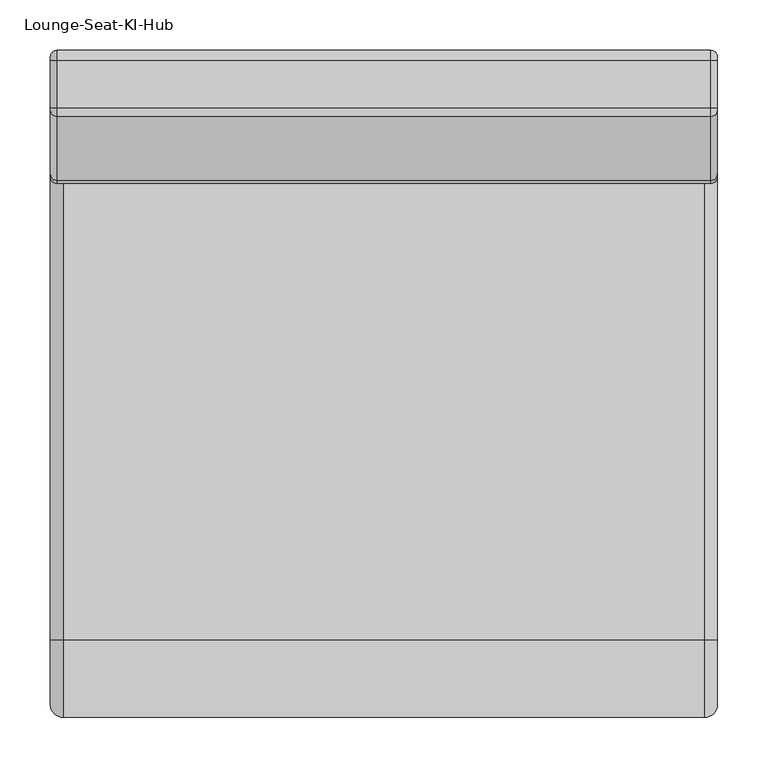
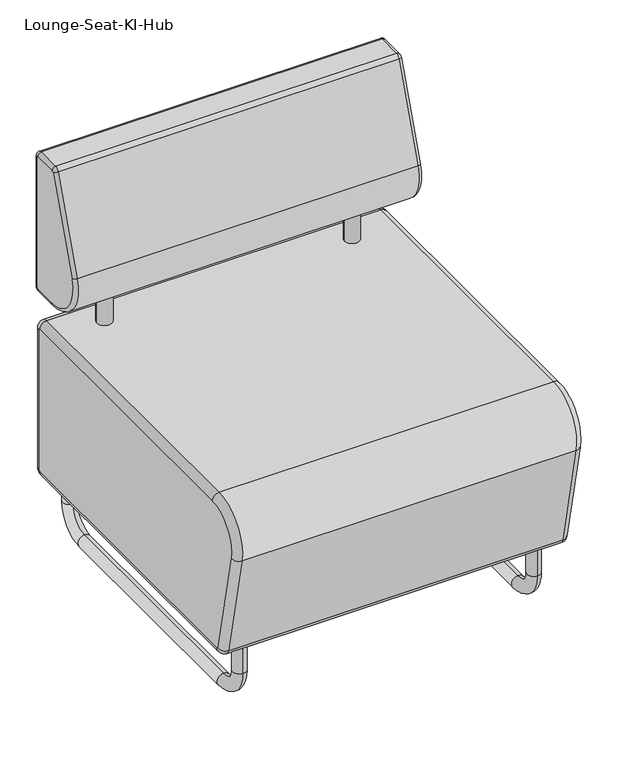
"""IFC4 building model written with IfcOpenShell, lengths in millimetres: furniture geometry."""

from ifc_helpers import new_model, si_unit, point, frame, frame_2d, origin, place, context, project, spatial, circle_curve, ellipse_curve, trimmed, segment, composite_curve, outline, extrude, source, transform, mapped, element, save
from ifc_brep_helpers import plane_surface, cylinder_surface, revolved_surface, advanced_brep


def lounge_seat_ki_hub_ab34b198(model_context):
    return source(origin(), model_context, "Body", "SolidModel", [
        extrude(outline(composite_curve([segment(trimmed(circle_curve(frame_2d((234.95, 266.7)), 14.2875), [point((220.6625, 266.7))], [point((249.2375, 266.7))], False, "CARTESIAN"), True, "CONTINUOUS"), segment(trimmed(circle_curve(frame_2d((234.95, 266.7)), 14.2875), [point((249.2375, 266.7))], [point((220.6625, 266.7))], False, "CARTESIAN"), True, "CONTINUOUS")], self_intersect=False)), frame((0.0, 0.0, 431.8), z_axis=(0.0, 0.0, 1.0), x_axis=(1.0, 0.0, 0.0)), (0.0, 0.0, 1.0), 63.5),
        extrude(outline(composite_curve([segment(trimmed(circle_curve(frame_2d((-234.95, 266.7)), 14.2875), [point((-249.2375, 266.7))], [point((-220.6625, 266.7))], False, "CARTESIAN"), True, "CONTINUOUS"), segment(trimmed(circle_curve(frame_2d((-234.95, 266.7)), 14.2875), [point((-220.6625, 266.7))], [point((-249.2375, 266.7))], False, "CARTESIAN"), True, "CONTINUOUS")], self_intersect=False)), frame((0.0, 0.0, 431.8), z_axis=(0.0, 0.0, 1.0), x_axis=(1.0, 0.0, 0.0)), (0.0, 0.0, 1.0), 63.5),
        advanced_brep(
        [(330.2, 274.6375, 495.3), (330.2, 207.4933705, 584.4032693), (323.85, 201.3893588, 586.1535665), (323.85, 274.6375, 488.95), (-323.85, 274.6375, 488.95), (-323.85, 201.3893588, 586.1535665), (-330.2, 207.4933705, 584.4032693), (-330.2, 274.6375, 495.3), (323.85, 320.675, 488.95), (330.2, 320.675, 495.3), (-330.2, 320.675, 495.3), (-323.85, 320.675, 488.95), (323.85, 330.2, 498.475), (330.2, 323.85, 498.475), (-330.2, 323.85, 498.475), (-323.85, 330.2, 498.475), (323.85, 330.2, 758.825), (330.2, 323.85, 758.825), (-330.2, 323.85, 758.825), (-323.85, 330.2, 758.825), (323.85, 320.675, 768.35), (330.2, 320.675, 762.0), (-330.2, 320.675, 762.0), (-323.85, 320.675, 768.35), (323.85, 273.6171173, 768.35), (330.2, 273.6171173, 762.0), (-330.2, 273.6171173, 762.0), (-323.85, 273.6171173, 768.35), (323.85, 264.88726, 762.6348842), (330.2, 270.7071649, 760.0949614), (-330.2, 270.7071649, 760.0949614), (-323.85, 264.88726, 762.6348842)],
        [
            (0, 1, circle_curve(frame((330.2, 274.6375, 565.15), z_axis=(-1.0, 0.0, 0.0), x_axis=(0.0, -0.9612616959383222, 0.2756373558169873)), 69.85)),
            (1, 2, circle_curve(frame((323.85, 207.4933705, 584.4032693), z_axis=(0.0, -0.2756373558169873, -0.9612616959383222), x_axis=(0.0, 0.9612616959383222, -0.2756373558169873)), 6.35)),
            (2, 3, circle_curve(frame((323.85, 274.6375, 565.15), z_axis=(1.0, 0.0, 0.0), x_axis=(0.0, -0.9612616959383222, 0.2756373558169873)), 76.2)),
            (3, 0, circle_curve(frame((323.85, 274.6375, 495.3), z_axis=(0.0, -0.9999999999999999, 0.0), x_axis=(0.0, 0.0, 0.9999999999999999)), 6.35)),
            (4, 5, circle_curve(frame((-323.85, 274.6375, 565.15), z_axis=(-1.0, 0.0, 0.0), x_axis=(0.0, -0.9612616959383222, 0.2756373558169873)), 76.2)),
            (5, 6, circle_curve(frame((-323.85, 207.4933705, 584.4032693), z_axis=(0.0, -0.2756373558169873, -0.9612616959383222), x_axis=(0.0, 0.9612616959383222, -0.2756373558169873)), 6.35)),
            (6, 7, circle_curve(frame((-330.2, 274.6375, 565.15), z_axis=(1.0, 0.0, 0.0), x_axis=(0.0, -0.9612616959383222, 0.2756373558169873)), 69.85)),
            (7, 4, circle_curve(frame((-323.85, 274.6375, 495.3), z_axis=(0.0, -1.0, 0.0), x_axis=(0.0, 0.0, 1.0)), 6.35)),
            (2, 5),
            (4, 3),
            (3, 8),
            (8, 9, circle_curve(frame((323.85, 320.675, 495.3), z_axis=(0.0, -1.0, 0.0), x_axis=(0.0, 0.0, 1.0)), 6.35)),
            (9, 0),
            (7, 10),
            (10, 11, circle_curve(frame((-323.85, 320.675, 495.3), z_axis=(0.0, -1.0, 0.0), x_axis=(0.0, 0.0, 1.0)), 6.35)),
            (11, 4),
            (11, 8),
            (8, 12, circle_curve(frame((323.85, 320.675, 498.475), z_axis=(1.0, 0.0, 0.0), x_axis=(0.0, 0.0, -1.0)), 9.525)),
            (12, 13, circle_curve(frame((323.85, 323.85, 498.475), z_axis=(0.0, -1.3642707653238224e-12, -1.0), x_axis=(0.0, -1.0, 1.3642707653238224e-12)), 6.35)),
            (13, 9, circle_curve(frame((330.2, 320.675, 498.475), z_axis=(-1.0, 0.0, 0.0), x_axis=(0.0, 0.0, -1.0)), 3.175)),
            (10, 14, circle_curve(frame((-330.2, 320.675, 498.475), z_axis=(1.0, 0.0, 0.0), x_axis=(0.0, 0.0, -1.0)), 3.175)),
            (14, 15, circle_curve(frame((-323.85, 323.85, 498.475), z_axis=(0.0, 0.0, -1.0), x_axis=(0.0, -1.0, 0.0)), 6.35)),
            (15, 11, circle_curve(frame((-323.85, 320.675, 498.475), z_axis=(-1.0, 0.0, 0.0), x_axis=(0.0, 0.0, -1.0)), 9.525)),
            (15, 12),
            (12, 16),
            (16, 17, circle_curve(frame((323.85, 323.85, 758.825), z_axis=(0.0, 0.0, -1.0), x_axis=(0.0, -1.0, 0.0)), 6.35)),
            (17, 13),
            (14, 18),
            (18, 19, circle_curve(frame((-323.85, 323.85, 758.825), z_axis=(0.0, 0.0, -1.0), x_axis=(0.0, -1.0, 0.0)), 6.35)),
            (19, 15),
            (19, 16),
            (16, 20, circle_curve(frame((323.85, 320.675, 758.825), z_axis=(1.0, 0.0, 0.0), x_axis=(0.0, 1.0, 0.0)), 9.525)),
            (20, 21, circle_curve(frame((323.85, 320.675, 762.0), z_axis=(0.0, 1.0, 0.0), x_axis=(0.0, 0.0, -1.0)), 6.35)),
            (21, 17, circle_curve(frame((330.2, 320.675, 758.825), z_axis=(-1.0, 0.0, 0.0), x_axis=(0.0, 1.0, 0.0)), 3.175)),
            (18, 22, circle_curve(frame((-330.2, 320.675, 758.825), z_axis=(1.0, 0.0, 0.0), x_axis=(0.0, 1.0, 0.0)), 3.175)),
            (22, 23, circle_curve(frame((-323.85, 320.675, 762.0), z_axis=(0.0, 1.0, 0.0), x_axis=(0.0, 0.0, -1.0)), 6.35)),
            (23, 19, circle_curve(frame((-323.85, 320.675, 758.825), z_axis=(-1.0, 0.0, 0.0), x_axis=(0.0, 1.0, 0.0)), 9.525)),
            (23, 20),
            (20, 24),
            (24, 25, circle_curve(frame((323.85, 273.6171173, 762.0), z_axis=(0.0, 1.0, 0.0), x_axis=(0.0, 0.0, -1.0)), 6.35)),
            (25, 21),
            (22, 26),
            (26, 27, circle_curve(frame((-323.85, 273.6171173, 762.0), z_axis=(0.0, 1.0, 0.0), x_axis=(0.0, 0.0, -1.0)), 6.35)),
            (27, 23),
            (27, 24),
            (24, 28, circle_curve(frame((323.85, 273.6171173, 758.825), z_axis=(1.0, 0.0, 0.0), x_axis=(0.0, 0.0, 1.0)), 9.525)),
            (28, 29, circle_curve(frame((323.85, 270.7071649, 760.0949614), z_axis=(0.0, 0.39998784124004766, 0.916520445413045), x_axis=(0.0, 0.916520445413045, -0.39998784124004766)), 6.35)),
            (29, 25, circle_curve(frame((330.2, 273.6171173, 758.825), z_axis=(-1.0, 0.0, 0.0), x_axis=(0.0, 0.0, 1.0)), 3.175)),
            (26, 30, circle_curve(frame((-330.2, 273.6171173, 758.825), z_axis=(1.0, 0.0, 0.0), x_axis=(0.0, 0.0, 1.0)), 3.175)),
            (30, 31, circle_curve(frame((-323.85, 270.7071649, 760.0949614), z_axis=(0.0, 0.3999878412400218, 0.9165204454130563), x_axis=(0.0, 0.9165204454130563, -0.3999878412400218)), 6.35)),
            (31, 27, circle_curve(frame((-323.85, 273.6171173, 758.825), z_axis=(-1.0, 0.0, 0.0), x_axis=(0.0, 0.0, 1.0)), 9.525)),
            (31, 28),
            (1, 29, circle_curve(frame((330.2, 1565.6359892, 194.9621402), z_axis=(-1.0, 0.0, 0.0), x_axis=(0.0, -0.9165204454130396, 0.39998784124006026)), 1412.875)),
            (28, 2, circle_curve(frame((323.85, 1565.6359892, 194.9621402), z_axis=(1.0, 0.0, 0.0), x_axis=(0.0, -0.9165204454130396, 0.39998784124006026)), 1419.225)),
            (6, 30, circle_curve(frame((-330.2, 1565.6359892, 194.9621402), z_axis=(-1.0, 0.0, 0.0), x_axis=(0.0, -0.9165204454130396, 0.39998784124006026)), 1412.875)),
            (5, 31, circle_curve(frame((-323.85, 1565.6359892, 194.9621402), z_axis=(-1.0, 0.0, 0.0), x_axis=(0.0, -0.9165204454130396, 0.39998784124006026)), 1419.225)),
        ],
        [
            revolved_surface(trimmed(ellipse_curve(frame((323.85, 207.4933705, 584.4032693), z_axis=(0.0, 0.2756373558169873, 0.9612616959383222), x_axis=(0.0, 0.9612616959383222, -0.2756373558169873)), 6.35, 6.35), [point((323.85, 201.3893588, 586.1535665))], [point((330.2, 207.4933705, 584.4032693))], True, "CARTESIAN"), (0.0, 274.6375, 565.15), (1.0, 0.0, 0.0)),
            revolved_surface(trimmed(ellipse_curve(frame((-323.85, 207.4933705, 584.4032693), z_axis=(0.0, 0.2756373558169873, 0.9612616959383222), x_axis=(0.0, 0.9612616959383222, -0.2756373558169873)), 6.35, 6.35), [point((-330.2, 207.4933705, 584.4032693))], [point((-323.85, 201.3893588, 586.1535665))], True, "CARTESIAN"), (0.0, 274.6375, 565.15), (1.0, 0.0, 0.0)),
            cylinder_surface(frame((0.0, 274.6375, 565.15), z_axis=(1.0, 0.0, 0.0), x_axis=(0.0, -0.9612616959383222, 0.2756373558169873)), 76.2),
            cylinder_surface(frame((323.85, 274.6375, 495.3), z_axis=(0.0, -1.0, 0.0), x_axis=(0.0, 0.0, 1.0)), 6.35),
            cylinder_surface(frame((-323.85, 274.6375, 495.3), z_axis=(0.0, -1.0, 0.0), x_axis=(0.0, 0.0, 1.0)), 6.35),
            plane_surface(frame((-323.85, 274.6375, 488.95), z_axis=(0.0, 0.0, -1.0), x_axis=(0.0, 1.0, 0.0))),
            revolved_surface(trimmed(ellipse_curve(frame((323.85, 320.675, 495.3), z_axis=(0.0, -1.0, 0.0), x_axis=(0.0, 0.0, 1.0)), 6.35, 6.35), [point((323.85, 320.675, 488.95))], [point((330.2, 320.675, 495.3))], True, "CARTESIAN"), (0.0, 320.675, 498.475), (1.0, 0.0, 0.0)),
            revolved_surface(trimmed(ellipse_curve(frame((-323.85, 320.675, 495.3), z_axis=(0.0, -1.0, 0.0), x_axis=(0.0, 0.0, 1.0)), 6.35, 6.35), [point((-330.2, 320.675, 495.3))], [point((-323.85, 320.675, 488.95))], True, "CARTESIAN"), (0.0, 320.675, 498.475), (1.0, 0.0, 0.0)),
            cylinder_surface(frame((0.0, 320.675, 498.475), z_axis=(1.0, 0.0, 0.0), x_axis=(0.0, 0.0, -1.0)), 9.525),
            cylinder_surface(frame((323.85, 323.85, 498.475), z_axis=(0.0, 0.0, -1.0), x_axis=(0.0, -1.0, 0.0)), 6.35),
            cylinder_surface(frame((-323.85, 323.85, 498.475), z_axis=(0.0, 0.0, -1.0), x_axis=(0.0, -1.0, 0.0)), 6.35),
            plane_surface(frame((-323.85, 330.2, 498.475), z_axis=(0.0, 1.0, 0.0), x_axis=(0.0, 0.0, 1.0))),
            revolved_surface(trimmed(ellipse_curve(frame((323.85, 323.85, 758.825), z_axis=(0.0, 0.0, -1.0), x_axis=(0.0, -1.0, 0.0)), 6.35, 6.35), [point((323.85, 330.2, 758.825))], [point((330.2, 323.85, 758.825))], True, "CARTESIAN"), (0.0, 320.675, 758.825), (1.0, 0.0, 0.0)),
            revolved_surface(trimmed(ellipse_curve(frame((-323.85, 323.85, 758.825), z_axis=(0.0, 0.0, -1.0), x_axis=(0.0, -1.0, 0.0)), 6.35, 6.35), [point((-330.2, 323.85, 758.825))], [point((-323.85, 330.2, 758.825))], True, "CARTESIAN"), (0.0, 320.675, 758.825), (1.0, 0.0, 0.0)),
            cylinder_surface(frame((0.0, 320.675, 758.825), z_axis=(1.0, 0.0, 0.0), x_axis=(0.0, 1.0, 0.0)), 9.525),
            cylinder_surface(frame((323.85, 320.675, 762.0), z_axis=(0.0, 1.0, 0.0), x_axis=(0.0, 0.0, -1.0)), 6.35),
            cylinder_surface(frame((-323.85, 320.675, 762.0), z_axis=(0.0, 1.0, 0.0), x_axis=(0.0, 0.0, -1.0)), 6.35),
            plane_surface(frame((-323.85, 320.675, 768.35), z_axis=(0.0, 0.0, 1.0), x_axis=(0.0, -1.0, 0.0))),
            revolved_surface(trimmed(ellipse_curve(frame((323.85, 273.6171173, 762.0), z_axis=(0.0, 1.0, 0.0), x_axis=(0.0, 0.0, -1.0)), 6.35, 6.35), [point((323.85, 273.6171173, 768.35))], [point((330.2, 273.6171173, 762.0))], True, "CARTESIAN"), (0.0, 273.6171173, 758.825), (1.0, 0.0, 0.0)),
            revolved_surface(trimmed(ellipse_curve(frame((-323.85, 273.6171173, 762.0), z_axis=(0.0, 1.0, 0.0), x_axis=(0.0, 0.0, -1.0)), 6.35, 6.35), [point((-330.2, 273.6171173, 762.0))], [point((-323.85, 273.6171173, 768.35))], True, "CARTESIAN"), (0.0, 273.6171173, 758.825), (1.0, 0.0, 0.0)),
            cylinder_surface(frame((0.0, 273.6171173, 758.825), z_axis=(1.0, 0.0, 0.0), x_axis=(0.0, 0.0, 1.0)), 9.525),
            revolved_surface(trimmed(ellipse_curve(frame((323.85, 270.7071649, 760.0949614), z_axis=(0.0, 0.39998784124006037, 0.9165204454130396), x_axis=(0.0, 0.9165204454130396, -0.39998784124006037)), 6.35, 6.35), [point((323.85, 264.88726, 762.6348842))], [point((330.2, 270.7071649, 760.0949614))], True, "CARTESIAN"), (0.0, 1565.6359892, 194.9621402), (1.0, 0.0, 0.0)),
            plane_surface(frame((330.2, 1565.6359892, 194.9621402), z_axis=(1.0, 0.0, 0.0), x_axis=(0.0, -0.9165204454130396, 0.39998784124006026))),
            plane_surface(frame((-330.2, 1565.6359892, 194.9621402), z_axis=(-1.0, 0.0, 0.0), x_axis=(0.0, -0.9165204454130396, 0.39998784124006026))),
            revolved_surface(trimmed(ellipse_curve(frame((-323.85, 270.7071649, 760.0949614), z_axis=(0.0, 0.39998784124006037, 0.9165204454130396), x_axis=(0.0, 0.9165204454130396, -0.39998784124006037)), 6.35, 6.35), [point((-330.2, 270.7071649, 760.0949614))], [point((-323.85, 264.88726, 762.6348842))], True, "CARTESIAN"), (0.0, 1565.6359892, 194.9621402), (1.0, 0.0, 0.0)),
            cylinder_surface(frame((0.0, 1565.6359892, 194.9621402), z_axis=(1.0, 0.0, 0.0), x_axis=(0.0, -0.9165204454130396, 0.39998784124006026)), 1419.225),
        ],
        [
            (0, [[1, 2, 3, 4]]),
            (1, [[5, 6, 7, 8]]),
            (2, [[-3, 9, -5, 10]]),
            (3, [[-4, 11, 12, 13]]),
            (4, [[-8, 14, 15, 16]]),
            (5, [[-10, -16, 17, -11]]),
            (6, [[-12, 18, 19, 20]]),
            (7, [[-15, 21, 22, 23]]),
            (8, [[-17, -23, 24, -18]]),
            (9, [[-19, 25, 26, 27]]),
            (10, [[-22, 28, 29, 30]]),
            (11, [[-24, -30, 31, -25]]),
            (12, [[-26, 32, 33, 34]]),
            (13, [[-29, 35, 36, 37]]),
            (14, [[-31, -37, 38, -32]]),
            (15, [[-33, 39, 40, 41]]),
            (16, [[-36, 42, 43, 44]]),
            (17, [[-38, -44, 45, -39]]),
            (18, [[-40, 46, 47, 48]]),
            (19, [[-43, 49, 50, 51]]),
            (20, [[-45, -51, 52, -46]]),
            (21, [[-2, 53, -47, 54]]),
            (22, [[-1, -13, -20, -27, -34, -41, -48, -53]]),
            (23, [[-7, 55, -49, -42, -35, -28, -21, -14]]),
            (24, [[-6, 56, -50, -55]]),
            (25, [[-9, -54, -52, -56]]),
        ],
    ),
        advanced_brep(
        [(279.4, -266.7, 120.65), (279.4, -241.3, 120.65), (279.4, -266.7, 63.5), (279.4, -241.3, 63.5), (279.4, -203.2, 25.4), (279.4, -203.2, 0.0), (279.4, 254.0, 0.0), (279.4, 254.0, 25.4), (279.4, 292.1, 63.5), (279.4, 317.5, 63.5), (279.4, 317.5, 120.65), (279.4, 292.1, 120.65)],
        [
            (0, 1, circle_curve(frame((279.4, -254.0, 120.65), z_axis=(0.0, 0.0, 1.0), x_axis=(0.0, 1.0, 0.0)), 12.7)),
            (1, 0, circle_curve(frame((279.4, -254.0, 120.65), z_axis=(0.0, 0.0, 1.0), x_axis=(0.0, 1.0, 0.0)), 12.7)),
            (0, 2),
            (2, 3, circle_curve(frame((279.4, -254.0, 63.5), z_axis=(0.0, 0.0, 1.0), x_axis=(0.0, 1.0, 0.0)), 12.7)),
            (3, 1),
            (3, 2, circle_curve(frame((279.4, -254.0, 63.5), z_axis=(0.0, 0.0, 1.0), x_axis=(0.0, 1.0, 0.0)), 12.7)),
            (4, 3, circle_curve(frame((279.4, -203.2, 63.5), z_axis=(-1.0, 0.0, 0.0), x_axis=(0.0, -1.0, 0.0)), 38.1)),
            (2, 5, circle_curve(frame((279.4, -203.2, 63.5), z_axis=(1.0, 0.0, 0.0), x_axis=(0.0, -1.0, 0.0)), 63.5)),
            (5, 4, circle_curve(frame((279.4, -203.2, 12.7), z_axis=(0.0, -1.0, 0.0), x_axis=(0.0, 0.0, 1.0)), 12.7)),
            (4, 5, circle_curve(frame((279.4, -203.2, 12.7), z_axis=(0.0, -1.0, 0.0), x_axis=(0.0, 0.0, 1.0)), 12.7)),
            (5, 6),
            (6, 7, circle_curve(frame((279.4, 254.0, 12.7), z_axis=(0.0, -1.0, 0.0), x_axis=(0.0, 0.0, 1.0)), 12.7)),
            (7, 4),
            (7, 6, circle_curve(frame((279.4, 254.0, 12.7), z_axis=(0.0, -1.0, 0.0), x_axis=(0.0, 0.0, 1.0)), 12.7)),
            (8, 7, circle_curve(frame((279.4, 254.0, 63.5), z_axis=(-1.0, 0.0, 0.0), x_axis=(0.0, 0.0, -1.0)), 38.1)),
            (6, 9, circle_curve(frame((279.4, 254.0, 63.5), z_axis=(1.0, 0.0, 0.0), x_axis=(0.0, 0.0, -1.0)), 63.5)),
            (9, 8, circle_curve(frame((279.4, 304.8, 63.5), z_axis=(0.0, 0.0, -1.0), x_axis=(0.0, -1.0, 0.0)), 12.7)),
            (8, 9, circle_curve(frame((279.4, 304.8, 63.5), z_axis=(0.0, 0.0, -1.0), x_axis=(0.0, -1.0, 0.0)), 12.7)),
            (10, 11, circle_curve(frame((279.4, 304.8, 120.65), z_axis=(0.0, 0.0, 1.0), x_axis=(0.0, -1.0, 0.0)), 12.7)),
            (11, 10, circle_curve(frame((279.4, 304.8, 120.65), z_axis=(0.0, 0.0, 1.0), x_axis=(0.0, -1.0, 0.0)), 12.7)),
            (9, 10),
            (11, 8),
        ],
        [
            plane_surface(frame((279.4, -254.0, 120.65), z_axis=(0.0, 0.0, 1.0), x_axis=(1.0, 0.0, 0.0))),
            cylinder_surface(frame((279.4, -254.0, 120.65), z_axis=(0.0, 0.0, 1.0), x_axis=(0.0, 1.0, 0.0)), 12.7),
            revolved_surface(trimmed(ellipse_curve(frame((279.4, -254.0, 63.5), z_axis=(0.0, 0.0, 1.0), x_axis=(0.0, 1.0, 0.0)), 12.7, 12.7), [point((279.4, -266.7, 63.5))], [point((279.4, -241.3, 63.5))], True, "CARTESIAN"), (279.4, -203.2, 63.5), (1.0, 0.0, 0.0)),
            revolved_surface(trimmed(ellipse_curve(frame((279.4, -254.0, 63.5), z_axis=(0.0, 0.0, 1.0), x_axis=(0.0, 1.0, 0.0)), 12.7, 12.7), [point((279.4, -241.3, 63.5))], [point((279.4, -266.7, 63.5))], True, "CARTESIAN"), (279.4, -203.2, 63.5), (1.0, 0.0, 0.0)),
            cylinder_surface(frame((279.4, -203.2, 12.7), z_axis=(0.0, -1.0, 0.0), x_axis=(0.0, 0.0, 1.0)), 12.7),
            revolved_surface(trimmed(ellipse_curve(frame((279.4, 254.0, 12.7), z_axis=(0.0, -1.0, 0.0), x_axis=(0.0, 0.0, 1.0)), 12.7, 12.7), [point((279.4, 254.0, 0.0))], [point((279.4, 254.0, 25.4))], True, "CARTESIAN"), (279.4, 254.0, 63.5), (1.0, 0.0, 0.0)),
            revolved_surface(trimmed(ellipse_curve(frame((279.4, 254.0, 12.7), z_axis=(0.0, -1.0, 0.0), x_axis=(0.0, 0.0, 1.0)), 12.7, 12.7), [point((279.4, 254.0, 25.4))], [point((279.4, 254.0, 0.0))], True, "CARTESIAN"), (279.4, 254.0, 63.5), (1.0, 0.0, 0.0)),
            plane_surface(frame((279.4, 304.8, 120.65), z_axis=(0.0, 0.0, 1.0), x_axis=(1.0, 0.0, 0.0))),
            cylinder_surface(frame((279.4, 304.8, 63.5), z_axis=(0.0, 0.0, -1.0), x_axis=(0.0, -1.0, 0.0)), 12.7),
        ],
        [
            (0, [[1, 2]]),
            (1, [[-1, 3, 4, 5]]),
            (1, [[-2, -5, 6, -3]]),
            (2, [[7, -4, 8, 9]]),
            (3, [[-8, -6, -7, 10]]),
            (4, [[-9, 11, 12, 13]]),
            (4, [[-10, -13, 14, -11]]),
            (5, [[15, -12, 16, 17]]),
            (6, [[-16, -14, -15, 18]]),
            (7, [[19, 20]]),
            (8, [[-17, 21, -20, 22]]),
            (8, [[-18, -22, -19, -21]]),
        ],
    ),
        advanced_brep(
        [(-279.4, -266.7, 120.65), (-279.4, -241.3, 120.65), (-279.4, -266.7, 63.5), (-279.4, -241.3, 63.5), (-279.4, -203.2, 25.4), (-279.4, -203.2, 0.0), (-279.4, 254.0, 0.0), (-279.4, 254.0, 25.4), (-279.4, 292.1, 63.5), (-279.4, 317.5, 63.5), (-279.4, 317.5, 120.65), (-279.4, 292.1, 120.65)],
        [
            (0, 1, circle_curve(frame((-279.4, -254.0, 120.65), z_axis=(0.0, 0.0, 1.0), x_axis=(0.0, 1.0, 0.0)), 12.7)),
            (1, 0, circle_curve(frame((-279.4, -254.0, 120.65), z_axis=(0.0, 0.0, 1.0), x_axis=(0.0, 1.0, 0.0)), 12.7)),
            (0, 2),
            (2, 3, circle_curve(frame((-279.4, -254.0, 63.5), z_axis=(0.0, 0.0, 1.0), x_axis=(0.0, 1.0, 0.0)), 12.7)),
            (3, 1),
            (3, 2, circle_curve(frame((-279.4, -254.0, 63.5), z_axis=(0.0, 0.0, 1.0), x_axis=(0.0, 1.0, 0.0)), 12.7)),
            (4, 3, circle_curve(frame((-279.4, -203.2, 63.5), z_axis=(-1.0, 0.0, 0.0), x_axis=(0.0, -1.0, 0.0)), 38.1)),
            (2, 5, circle_curve(frame((-279.4, -203.2, 63.5), z_axis=(1.0, 0.0, 0.0), x_axis=(0.0, -1.0, 0.0)), 63.5)),
            (5, 4, circle_curve(frame((-279.4, -203.2, 12.7), z_axis=(0.0, -1.0, 0.0), x_axis=(0.0, 0.0, 1.0)), 12.7)),
            (4, 5, circle_curve(frame((-279.4, -203.2, 12.7), z_axis=(0.0, -1.0, 0.0), x_axis=(0.0, 0.0, 1.0)), 12.7)),
            (5, 6),
            (6, 7, circle_curve(frame((-279.4, 254.0, 12.7), z_axis=(0.0, -1.0, 0.0), x_axis=(0.0, 0.0, 1.0)), 12.7)),
            (7, 4),
            (7, 6, circle_curve(frame((-279.4, 254.0, 12.7), z_axis=(0.0, -1.0, 0.0), x_axis=(0.0, 0.0, 1.0)), 12.7)),
            (8, 7, circle_curve(frame((-279.4, 254.0, 63.5), z_axis=(-1.0, 0.0, 0.0), x_axis=(0.0, 0.0, -1.0)), 38.1)),
            (6, 9, circle_curve(frame((-279.4, 254.0, 63.5), z_axis=(1.0, 0.0, 0.0), x_axis=(0.0, 0.0, -1.0)), 63.5)),
            (9, 8, circle_curve(frame((-279.4, 304.8, 63.5), z_axis=(0.0, 0.0, -1.0), x_axis=(0.0, -1.0, 0.0)), 12.7)),
            (8, 9, circle_curve(frame((-279.4, 304.8, 63.5), z_axis=(0.0, 0.0, -1.0), x_axis=(0.0, -1.0, 0.0)), 12.7)),
            (10, 11, circle_curve(frame((-279.4, 304.8, 120.65), z_axis=(0.0, 0.0, 1.0), x_axis=(0.0, -1.0, 0.0)), 12.7)),
            (11, 10, circle_curve(frame((-279.4, 304.8, 120.65), z_axis=(0.0, 0.0, 1.0), x_axis=(0.0, -1.0, 0.0)), 12.7)),
            (9, 10),
            (11, 8),
        ],
        [
            plane_surface(frame((-279.4, -254.0, 120.65), z_axis=(0.0, 0.0, 1.0), x_axis=(1.0, 0.0, 0.0))),
            cylinder_surface(frame((-279.4, -254.0, 120.65), z_axis=(0.0, 0.0, 1.0), x_axis=(0.0, 1.0, 0.0)), 12.7),
            revolved_surface(trimmed(ellipse_curve(frame((-279.4, -254.0, 63.5), z_axis=(0.0, 0.0, 1.0), x_axis=(0.0, 1.0, 0.0)), 12.7, 12.7), [point((-279.4, -266.7, 63.5))], [point((-279.4, -241.3, 63.5))], True, "CARTESIAN"), (-279.4, -203.2, 63.5), (1.0, 0.0, 0.0)),
            revolved_surface(trimmed(ellipse_curve(frame((-279.4, -254.0, 63.5), z_axis=(0.0, 0.0, 1.0), x_axis=(0.0, 1.0, 0.0)), 12.7, 12.7), [point((-279.4, -241.3, 63.5))], [point((-279.4, -266.7, 63.5))], True, "CARTESIAN"), (-279.4, -203.2, 63.5), (1.0, 0.0, 0.0)),
            cylinder_surface(frame((-279.4, -203.2, 12.7), z_axis=(0.0, -1.0, 0.0), x_axis=(0.0, 0.0, 1.0)), 12.7),
            revolved_surface(trimmed(ellipse_curve(frame((-279.4, 254.0, 12.7), z_axis=(0.0, -1.0, 0.0), x_axis=(0.0, 0.0, 1.0)), 12.7, 12.7), [point((-279.4, 254.0, 0.0))], [point((-279.4, 254.0, 25.4))], True, "CARTESIAN"), (-279.4, 254.0, 63.5), (1.0, 0.0, 0.0)),
            revolved_surface(trimmed(ellipse_curve(frame((-279.4, 254.0, 12.7), z_axis=(0.0, -1.0, 0.0), x_axis=(0.0, 0.0, 1.0)), 12.7, 12.7), [point((-279.4, 254.0, 25.4))], [point((-279.4, 254.0, 0.0))], True, "CARTESIAN"), (-279.4, 254.0, 63.5), (1.0, 0.0, 0.0)),
            plane_surface(frame((-279.4, 304.8, 120.65), z_axis=(0.0, 0.0, 1.0), x_axis=(1.0, 0.0, 0.0))),
            cylinder_surface(frame((-279.4, 304.8, 63.5), z_axis=(0.0, 0.0, -1.0), x_axis=(0.0, -1.0, 0.0)), 12.7),
        ],
        [
            (0, [[1, 2]]),
            (1, [[-1, 3, 4, 5]]),
            (1, [[-2, -5, 6, -3]]),
            (2, [[7, -4, 8, 9]]),
            (3, [[-8, -6, -7, 10]]),
            (4, [[-9, 11, 12, 13]]),
            (4, [[-10, -13, 14, -11]]),
            (5, [[15, -12, 16, 17]]),
            (6, [[-16, -14, -15, 18]]),
            (7, [[19, 20]]),
            (8, [[-17, 21, -20, 22]]),
            (8, [[-18, -22, -19, -21]]),
        ],
    ),
        advanced_brep(
        [(330.2, -316.1123726, 342.3976076), (330.2, -254.0, 419.1), (317.5, -254.0, 431.8), (317.5, -328.5348472, 339.7571292), (-317.5, -328.5348472, 339.7571292), (-317.5, -254.0, 431.8), (-330.2, -254.0, 419.1), (-330.2, -316.1123726, 342.3976076), (317.5, -284.6349608, 133.2244019), (330.2, -272.2124863, 135.8648804), (-330.2, -272.2124863, 135.8648804), (-317.5, -284.6349608, 133.2244019), (317.5, -269.1068676, 120.65), (330.2, -269.1068676, 133.35), (-330.2, -269.1068676, 133.35), (-317.5, -269.1068676, 120.65), (317.5, 314.325, 120.65), (330.2, 314.325, 133.35), (-330.2, 314.325, 133.35), (-317.5, 314.325, 120.65), (317.5, 330.2, 136.525), (330.2, 317.5, 136.525), (-330.2, 317.5, 136.525), (-317.5, 330.2, 136.525), (317.5, 330.2, 415.925), (330.2, 317.5, 415.925), (-330.2, 317.5, 415.925), (-317.5, 330.2, 415.925), (317.5, 314.325, 431.8), (330.2, 314.325, 419.1), (-330.2, 314.325, 419.1), (-317.5, 314.325, 431.8)],
        [
            (0, 1, circle_curve(frame((330.2, -254.0, 355.6), z_axis=(-1.0, 0.0, 0.0), x_axis=(0.0, 0.0, 1.0)), 63.5)),
            (1, 2, circle_curve(frame((317.5, -254.0, 419.1), z_axis=(0.0, -1.0, 0.0), x_axis=(0.0, 0.0, -1.0)), 12.7)),
            (2, 3, circle_curve(frame((317.5, -254.0, 355.6), z_axis=(1.0, 0.0, 0.0), x_axis=(0.0, 0.0, 1.0)), 76.2)),
            (3, 0, circle_curve(frame((317.5, -316.1123726, 342.3976076), z_axis=(0.0, -0.20791169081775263, 0.978147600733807), x_axis=(0.0, 0.978147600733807, 0.20791169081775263)), 12.7)),
            (4, 5, circle_curve(frame((-317.5, -254.0, 355.6), z_axis=(-1.0, 0.0, 0.0), x_axis=(0.0, 0.0, 1.0)), 76.2)),
            (5, 6, circle_curve(frame((-317.5, -254.0, 419.1), z_axis=(0.0, -1.0, 0.0), x_axis=(0.0, 0.0, -1.0)), 12.7)),
            (6, 7, circle_curve(frame((-330.2, -254.0, 355.6), z_axis=(1.0, 0.0, 0.0), x_axis=(0.0, 0.0, 1.0)), 63.5)),
            (7, 4, circle_curve(frame((-317.5, -316.1123726, 342.3976076), z_axis=(0.0, -0.20791169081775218, 0.9781476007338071), x_axis=(0.0, 0.9781476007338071, 0.20791169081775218)), 12.7)),
            (2, 5),
            (4, 3),
            (3, 8),
            (8, 9, circle_curve(frame((317.5, -272.2124863, 135.8648804), z_axis=(0.0, -0.2079116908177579, 0.978147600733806), x_axis=(0.0, 0.978147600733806, 0.2079116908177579)), 12.7)),
            (9, 0),
            (7, 10),
            (10, 11, circle_curve(frame((-317.5, -272.2124863, 135.8648804), z_axis=(0.0, -0.2079116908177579, 0.978147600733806), x_axis=(0.0, 0.978147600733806, 0.2079116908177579)), 12.7)),
            (11, 4),
            (11, 8),
            (8, 12, circle_curve(frame((317.5, -269.1068676, 136.525), z_axis=(1.0, 0.0, 0.0), x_axis=(0.0, -0.9781476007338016, -0.2079116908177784)), 15.875)),
            (12, 13, circle_curve(frame((317.5, -269.1068676, 133.35), z_axis=(0.0, -0.9999999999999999, 0.0), x_axis=(0.0, 0.0, 0.9999999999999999)), 12.7)),
            (13, 9, circle_curve(frame((330.2, -269.1068676, 136.525), z_axis=(-1.0, 0.0, 0.0), x_axis=(0.0, -0.9781476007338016, -0.2079116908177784)), 3.175)),
            (10, 14, circle_curve(frame((-330.2, -269.1068676, 136.525), z_axis=(1.0, 0.0, 0.0), x_axis=(0.0, -0.9781476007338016, -0.2079116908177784)), 3.175)),
            (14, 15, circle_curve(frame((-317.5, -269.1068676, 133.35), z_axis=(0.0, -1.0, 0.0), x_axis=(0.0, 0.0, 1.0)), 12.7)),
            (15, 11, circle_curve(frame((-317.5, -269.1068676, 136.525), z_axis=(-1.0, 0.0, 0.0), x_axis=(0.0, -0.9781476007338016, -0.2079116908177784)), 15.875)),
            (15, 12),
            (12, 16),
            (16, 17, circle_curve(frame((317.5, 314.325, 133.35), z_axis=(0.0, -1.0, 0.0), x_axis=(0.0, 0.0, 1.0)), 12.7)),
            (17, 13),
            (14, 18),
            (18, 19, circle_curve(frame((-317.5, 314.325, 133.35), z_axis=(0.0, -1.0, 0.0), x_axis=(0.0, 0.0, 1.0)), 12.7)),
            (19, 15),
            (19, 16),
            (16, 20, circle_curve(frame((317.5, 314.325, 136.525), z_axis=(1.0, 0.0, 0.0), x_axis=(0.0, 0.0, -1.0)), 15.875)),
            (20, 21, circle_curve(frame((317.5, 317.5, 136.525), z_axis=(0.0, 0.0, -1.0), x_axis=(0.0, -1.0, 0.0)), 12.7)),
            (21, 17, circle_curve(frame((330.2, 314.325, 136.525), z_axis=(-1.0, 0.0, 0.0), x_axis=(0.0, 0.0, -1.0)), 3.175)),
            (18, 22, circle_curve(frame((-330.2, 314.325, 136.525), z_axis=(1.0, 0.0, 0.0), x_axis=(0.0, 0.0, -1.0)), 3.175)),
            (22, 23, circle_curve(frame((-317.5, 317.5, 136.525), z_axis=(0.0, 0.0, -1.0), x_axis=(0.0, -1.0, 0.0)), 12.7)),
            (23, 19, circle_curve(frame((-317.5, 314.325, 136.525), z_axis=(-1.0, 0.0, 0.0), x_axis=(0.0, 0.0, -1.0)), 15.875)),
            (23, 20),
            (20, 24),
            (24, 25, circle_curve(frame((317.5, 317.5, 415.925), z_axis=(0.0, 0.0, -1.0), x_axis=(0.0, -1.0, 0.0)), 12.7)),
            (25, 21),
            (22, 26),
            (26, 27, circle_curve(frame((-317.5, 317.5, 415.925), z_axis=(0.0, 0.0, -1.0), x_axis=(0.0, -1.0, 0.0)), 12.7)),
            (27, 23),
            (27, 24),
            (24, 28, circle_curve(frame((317.5, 314.325, 415.925), z_axis=(1.0, 0.0, 0.0), x_axis=(0.0, 1.0, 0.0)), 15.875)),
            (28, 29, circle_curve(frame((317.5, 314.325, 419.1), z_axis=(0.0, 1.0, 0.0), x_axis=(0.0, 0.0, -1.0)), 12.7)),
            (29, 25, circle_curve(frame((330.2, 314.325, 415.925), z_axis=(-1.0, 0.0, 0.0), x_axis=(0.0, 1.0, 0.0)), 3.175)),
            (26, 30, circle_curve(frame((-330.2, 314.325, 415.925), z_axis=(1.0, 0.0, 0.0), x_axis=(0.0, 1.0, 0.0)), 3.175)),
            (30, 31, circle_curve(frame((-317.5, 314.325, 419.1), z_axis=(0.0, 1.0, 0.0), x_axis=(0.0, 0.0, -1.0)), 12.7)),
            (31, 27, circle_curve(frame((-317.5, 314.325, 415.925), z_axis=(-1.0, 0.0, 0.0), x_axis=(0.0, 1.0, 0.0)), 15.875)),
            (31, 28),
            (1, 29),
            (28, 2),
            (6, 30),
            (5, 31),
        ],
        [
            revolved_surface(trimmed(ellipse_curve(frame((317.5, -254.0, 419.1), z_axis=(0.0, 1.0, 0.0), x_axis=(0.0, 0.0, -1.0)), 12.7, 12.7), [point((317.5, -254.0, 431.8))], [point((330.2, -254.0, 419.1))], True, "CARTESIAN"), (0.0, -254.0, 355.6), (1.0, 0.0, 0.0)),
            revolved_surface(trimmed(ellipse_curve(frame((-317.5, -254.0, 419.1), z_axis=(0.0, 1.0, 0.0), x_axis=(0.0, 0.0, -1.0)), 12.7, 12.7), [point((-330.2, -254.0, 419.1))], [point((-317.5, -254.0, 431.8))], True, "CARTESIAN"), (0.0, -254.0, 355.6), (1.0, 0.0, 0.0)),
            cylinder_surface(frame((0.0, -254.0, 355.6), z_axis=(1.0, 0.0, 0.0), x_axis=(0.0, 0.0, 1.0)), 76.2),
            cylinder_surface(frame((317.5, -316.1123726, 342.3976076), z_axis=(0.0, -0.2079116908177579, 0.978147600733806), x_axis=(0.0, 0.978147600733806, 0.2079116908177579)), 12.7),
            cylinder_surface(frame((-317.5, -316.1123726, 342.3976076), z_axis=(0.0, -0.2079116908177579, 0.978147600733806), x_axis=(0.0, 0.978147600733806, 0.2079116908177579)), 12.7),
            plane_surface(frame((-317.5, -328.5348472, 339.7571292), z_axis=(0.0, -0.978147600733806, -0.20791169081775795), x_axis=(0.0, 0.20791169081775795, -0.978147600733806))),
            revolved_surface(trimmed(ellipse_curve(frame((317.5, -272.2124863, 135.8648804), z_axis=(0.0, -0.2079116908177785, 0.9781476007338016), x_axis=(0.0, 0.9781476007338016, 0.2079116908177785)), 12.7, 12.7), [point((317.5, -284.6349608, 133.2244019))], [point((330.2, -272.2124863, 135.8648804))], True, "CARTESIAN"), (0.0, -269.1068676, 136.525), (1.0, 0.0, 0.0)),
            revolved_surface(trimmed(ellipse_curve(frame((-317.5, -272.2124863, 135.8648804), z_axis=(0.0, -0.2079116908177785, 0.9781476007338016), x_axis=(0.0, 0.9781476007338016, 0.2079116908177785)), 12.7, 12.7), [point((-330.2, -272.2124863, 135.8648804))], [point((-317.5, -284.6349608, 133.2244019))], True, "CARTESIAN"), (0.0, -269.1068676, 136.525), (1.0, 0.0, 0.0)),
            cylinder_surface(frame((0.0, -269.1068676, 136.525), z_axis=(1.0, 0.0, 0.0), x_axis=(0.0, -0.9781476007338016, -0.2079116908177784)), 15.875),
            cylinder_surface(frame((317.5, -269.1068676, 133.35), z_axis=(0.0, -1.0, 0.0), x_axis=(0.0, 0.0, 1.0)), 12.7),
            cylinder_surface(frame((-317.5, -269.1068676, 133.35), z_axis=(0.0, -1.0, 0.0), x_axis=(0.0, 0.0, 1.0)), 12.7),
            plane_surface(frame((-317.5, -269.1068676, 120.65), z_axis=(0.0, 0.0, -1.0), x_axis=(0.0, 1.0, 0.0))),
            revolved_surface(trimmed(ellipse_curve(frame((317.5, 314.325, 133.35), z_axis=(0.0, -1.0, 0.0), x_axis=(0.0, 0.0, 1.0)), 12.7, 12.7), [point((317.5, 314.325, 120.65))], [point((330.2, 314.325, 133.35))], True, "CARTESIAN"), (0.0, 314.325, 136.525), (1.0, 0.0, 0.0)),
            revolved_surface(trimmed(ellipse_curve(frame((-317.5, 314.325, 133.35), z_axis=(0.0, -1.0, 0.0), x_axis=(0.0, 0.0, 1.0)), 12.7, 12.7), [point((-330.2, 314.325, 133.35))], [point((-317.5, 314.325, 120.65))], True, "CARTESIAN"), (0.0, 314.325, 136.525), (1.0, 0.0, 0.0)),
            cylinder_surface(frame((0.0, 314.325, 136.525), z_axis=(1.0, 0.0, 0.0), x_axis=(0.0, 0.0, -1.0)), 15.875),
            cylinder_surface(frame((317.5, 317.5, 136.525), z_axis=(0.0, 0.0, -1.0), x_axis=(0.0, -1.0, 0.0)), 12.7),
            cylinder_surface(frame((-317.5, 317.5, 136.525), z_axis=(0.0, 0.0, -1.0), x_axis=(0.0, -1.0, 0.0)), 12.7),
            plane_surface(frame((-317.5, 330.2, 136.525), z_axis=(0.0, 1.0, 0.0), x_axis=(0.0, 0.0, 1.0))),
            revolved_surface(trimmed(ellipse_curve(frame((317.5, 317.5, 415.925), z_axis=(0.0, 0.0, -1.0), x_axis=(0.0, -1.0, 0.0)), 12.7, 12.7), [point((317.5, 330.2, 415.925))], [point((330.2, 317.5, 415.925))], True, "CARTESIAN"), (0.0, 314.325, 415.925), (1.0, 0.0, 0.0)),
            revolved_surface(trimmed(ellipse_curve(frame((-317.5, 317.5, 415.925), z_axis=(0.0, 0.0, -1.0), x_axis=(0.0, -1.0, 0.0)), 12.7, 12.7), [point((-330.2, 317.5, 415.925))], [point((-317.5, 330.2, 415.925))], True, "CARTESIAN"), (0.0, 314.325, 415.925), (1.0, 0.0, 0.0)),
            cylinder_surface(frame((0.0, 314.325, 415.925), z_axis=(1.0, 0.0, 0.0), x_axis=(0.0, 1.0, 0.0)), 15.875),
            cylinder_surface(frame((317.5, 314.325, 419.1), z_axis=(0.0, 1.0, 0.0), x_axis=(0.0, 0.0, -1.0)), 12.7),
            plane_surface(frame((330.2, 314.325, 419.1), z_axis=(1.0, 0.0, 0.0), x_axis=(0.0, -1.0, 0.0))),
            plane_surface(frame((-330.2, 314.325, 418.30625), z_axis=(-1.0, 0.0, 0.0), x_axis=(0.0, -1.0, 0.0))),
            cylinder_surface(frame((-317.5, 314.325, 419.1), z_axis=(0.0, 1.0, 0.0), x_axis=(0.0, 0.0, -1.0)), 12.7),
            plane_surface(frame((-317.5, 314.325, 431.8), z_axis=(0.0, 0.0, 1.0), x_axis=(0.0, -1.0, 0.0))),
        ],
        [
            (0, [[1, 2, 3, 4]]),
            (1, [[5, 6, 7, 8]]),
            (2, [[-3, 9, -5, 10]]),
            (3, [[-4, 11, 12, 13]]),
            (4, [[-8, 14, 15, 16]]),
            (5, [[-10, -16, 17, -11]]),
            (6, [[-12, 18, 19, 20]]),
            (7, [[-15, 21, 22, 23]]),
            (8, [[-17, -23, 24, -18]]),
            (9, [[-19, 25, 26, 27]]),
            (10, [[-22, 28, 29, 30]]),
            (11, [[-24, -30, 31, -25]]),
            (12, [[-26, 32, 33, 34]]),
            (13, [[-29, 35, 36, 37]]),
            (14, [[-31, -37, 38, -32]]),
            (15, [[-33, 39, 40, 41]]),
            (16, [[-36, 42, 43, 44]]),
            (17, [[-38, -44, 45, -39]]),
            (18, [[-40, 46, 47, 48]]),
            (19, [[-43, 49, 50, 51]]),
            (20, [[-45, -51, 52, -46]]),
            (21, [[-2, 53, -47, 54]]),
            (22, [[-1, -13, -20, -27, -34, -41, -48, -53]]),
            (23, [[-7, 55, -49, -42, -35, -28, -21, -14]]),
            (24, [[-6, 56, -50, -55]]),
            (25, [[-9, -54, -52, -56]]),
        ],
    ),
    ])


if __name__ == "__main__":
    model = new_model("IFC4")
    model_context = context("Model", 3, world=origin())
    ifc_project = project(units=[si_unit("LENGTHUNIT", "METRE", prefix="MILLI")], contexts=[model_context])
    site = spatial("IfcSite", under=ifc_project)
    building = spatial("IfcBuilding", under=site)
    placement = place(None, origin())
    lounge_seat_ki_hub_shape = lounge_seat_ki_hub_ab34b198(model_context)
    element("IfcFurniture", 1, ObjectType="Lounge-Seat-KI-Hub : 26\"W, Armless, Contrast", at=placement, inside=building, context=model_context, shape_type="MappedRepresentation", body=[
        mapped(lounge_seat_ki_hub_shape, transform((0.0, 0.0, 0.0), x_axis=(1.0, 0.0, 0.0), y_axis=(0.0, 1.0, 0.0), z_axis=(0.0, 0.0, 1.0))),
    ])
    save(model, "model.ifc")
